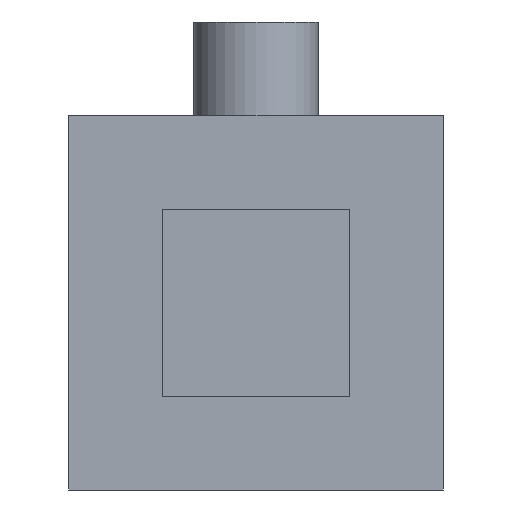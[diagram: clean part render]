
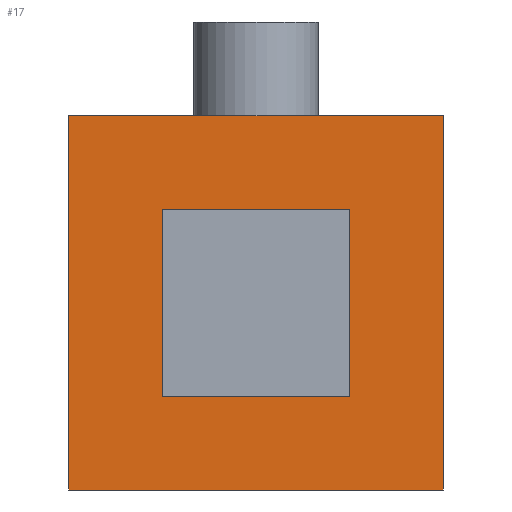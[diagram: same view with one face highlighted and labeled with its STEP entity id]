
A CAD part, left-side view. The second image highlights one B-rep face of the part: STEP entity #17.
In plain terms, the highlighted planar face has unit normal (-1, 0, 0).
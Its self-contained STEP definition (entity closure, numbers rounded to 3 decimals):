
#17 = ADVANCED_FACE('',(#18,#137),#32,.F.);
#18 = FACE_BOUND('',#19,.F.);
#19 = EDGE_LOOP('',(#20,#55,#83,#111));
#20 = ORIENTED_EDGE('',*,*,#21,.F.);
#21 = EDGE_CURVE('',#22,#24,#26,.T.);
#22 = VERTEX_POINT('',#23);
#23 = CARTESIAN_POINT('',(-140.,204.,70.));
#24 = VERTEX_POINT('',#25);
#25 = CARTESIAN_POINT('',(-140.,204.,82.));
#26 = SURFACE_CURVE('',#27,(#31,#43),.PCURVE_S1.);
#27 = LINE('',#28,#29);
#28 = CARTESIAN_POINT('',(-140.,204.,70.));
#29 = VECTOR('',#30,1.);
#30 = DIRECTION('',(0.,0.,1.));
#31 = PCURVE('',#32,#37);
#32 = PLANE('',#33);
#33 = AXIS2_PLACEMENT_3D('',#34,#35,#36);
#34 = CARTESIAN_POINT('',(-140.,204.,70.));
#35 = DIRECTION('',(1.,0.,0.));
#36 = DIRECTION('',(0.,0.,1.));
#37 = DEFINITIONAL_REPRESENTATION('',(#38),#42);
#38 = LINE('',#39,#40);
#39 = CARTESIAN_POINT('',(0.,0.));
#40 = VECTOR('',#41,1.);
#41 = DIRECTION('',(1.,0.));
#42 = ( GEOMETRIC_REPRESENTATION_CONTEXT(2) 
PARAMETRIC_REPRESENTATION_CONTEXT() REPRESENTATION_CONTEXT('2D SPACE',''
  ) );
#43 = PCURVE('',#44,#49);
#44 = PLANE('',#45);
#45 = AXIS2_PLACEMENT_3D('',#46,#47,#48);
#46 = CARTESIAN_POINT('',(-140.,204.,70.));
#47 = DIRECTION('',(0.,1.,0.));
#48 = DIRECTION('',(0.,0.,1.));
#49 = DEFINITIONAL_REPRESENTATION('',(#50),#54);
#50 = LINE('',#51,#52);
#51 = CARTESIAN_POINT('',(0.,0.));
#52 = VECTOR('',#53,1.);
#53 = DIRECTION('',(1.,0.));
#54 = ( GEOMETRIC_REPRESENTATION_CONTEXT(2) 
PARAMETRIC_REPRESENTATION_CONTEXT() REPRESENTATION_CONTEXT('2D SPACE',''
  ) );
#55 = ORIENTED_EDGE('',*,*,#56,.T.);
#56 = EDGE_CURVE('',#22,#57,#59,.T.);
#57 = VERTEX_POINT('',#58);
#58 = CARTESIAN_POINT('',(-140.,216.,70.));
#59 = SURFACE_CURVE('',#60,(#64,#71),.PCURVE_S1.);
#60 = LINE('',#61,#62);
#61 = CARTESIAN_POINT('',(-140.,204.,70.));
#62 = VECTOR('',#63,1.);
#63 = DIRECTION('',(0.,1.,0.));
#64 = PCURVE('',#32,#65);
#65 = DEFINITIONAL_REPRESENTATION('',(#66),#70);
#66 = LINE('',#67,#68);
#67 = CARTESIAN_POINT('',(0.,0.));
#68 = VECTOR('',#69,1.);
#69 = DIRECTION('',(0.,-1.));
#70 = ( GEOMETRIC_REPRESENTATION_CONTEXT(2) 
PARAMETRIC_REPRESENTATION_CONTEXT() REPRESENTATION_CONTEXT('2D SPACE',''
  ) );
#71 = PCURVE('',#72,#77);
#72 = PLANE('',#73);
#73 = AXIS2_PLACEMENT_3D('',#74,#75,#76);
#74 = CARTESIAN_POINT('',(-140.,204.,70.));
#75 = DIRECTION('',(0.,0.,1.));
#76 = DIRECTION('',(1.,0.,0.));
#77 = DEFINITIONAL_REPRESENTATION('',(#78),#82);
#78 = LINE('',#79,#80);
#79 = CARTESIAN_POINT('',(0.,0.));
#80 = VECTOR('',#81,1.);
#81 = DIRECTION('',(0.,1.));
#82 = ( GEOMETRIC_REPRESENTATION_CONTEXT(2) 
PARAMETRIC_REPRESENTATION_CONTEXT() REPRESENTATION_CONTEXT('2D SPACE',''
  ) );
#83 = ORIENTED_EDGE('',*,*,#84,.T.);
#84 = EDGE_CURVE('',#57,#85,#87,.T.);
#85 = VERTEX_POINT('',#86);
#86 = CARTESIAN_POINT('',(-140.,216.,82.));
#87 = SURFACE_CURVE('',#88,(#92,#99),.PCURVE_S1.);
#88 = LINE('',#89,#90);
#89 = CARTESIAN_POINT('',(-140.,216.,70.));
#90 = VECTOR('',#91,1.);
#91 = DIRECTION('',(0.,0.,1.));
#92 = PCURVE('',#32,#93);
#93 = DEFINITIONAL_REPRESENTATION('',(#94),#98);
#94 = LINE('',#95,#96);
#95 = CARTESIAN_POINT('',(0.,-12.));
#96 = VECTOR('',#97,1.);
#97 = DIRECTION('',(1.,0.));
#98 = ( GEOMETRIC_REPRESENTATION_CONTEXT(2) 
PARAMETRIC_REPRESENTATION_CONTEXT() REPRESENTATION_CONTEXT('2D SPACE',''
  ) );
#99 = PCURVE('',#100,#105);
#100 = PLANE('',#101);
#101 = AXIS2_PLACEMENT_3D('',#102,#103,#104);
#102 = CARTESIAN_POINT('',(-140.,216.,70.));
#103 = DIRECTION('',(0.,1.,0.));
#104 = DIRECTION('',(0.,0.,1.));
#105 = DEFINITIONAL_REPRESENTATION('',(#106),#110);
#106 = LINE('',#107,#108);
#107 = CARTESIAN_POINT('',(0.,0.));
#108 = VECTOR('',#109,1.);
#109 = DIRECTION('',(1.,0.));
#110 = ( GEOMETRIC_REPRESENTATION_CONTEXT(2) 
PARAMETRIC_REPRESENTATION_CONTEXT() REPRESENTATION_CONTEXT('2D SPACE',''
  ) );
#111 = ORIENTED_EDGE('',*,*,#112,.F.);
#112 = EDGE_CURVE('',#24,#85,#113,.T.);
#113 = SURFACE_CURVE('',#114,(#118,#125),.PCURVE_S1.);
#114 = LINE('',#115,#116);
#115 = CARTESIAN_POINT('',(-140.,204.,82.));
#116 = VECTOR('',#117,1.);
#117 = DIRECTION('',(0.,1.,0.));
#118 = PCURVE('',#32,#119);
#119 = DEFINITIONAL_REPRESENTATION('',(#120),#124);
#120 = LINE('',#121,#122);
#121 = CARTESIAN_POINT('',(12.,0.));
#122 = VECTOR('',#123,1.);
#123 = DIRECTION('',(0.,-1.));
#124 = ( GEOMETRIC_REPRESENTATION_CONTEXT(2) 
PARAMETRIC_REPRESENTATION_CONTEXT() REPRESENTATION_CONTEXT('2D SPACE',''
  ) );
#125 = PCURVE('',#126,#131);
#126 = PLANE('',#127);
#127 = AXIS2_PLACEMENT_3D('',#128,#129,#130);
#128 = CARTESIAN_POINT('',(-140.,204.,82.));
#129 = DIRECTION('',(0.,0.,1.));
#130 = DIRECTION('',(1.,0.,0.));
#131 = DEFINITIONAL_REPRESENTATION('',(#132),#136);
#132 = LINE('',#133,#134);
#133 = CARTESIAN_POINT('',(0.,0.));
#134 = VECTOR('',#135,1.);
#135 = DIRECTION('',(0.,1.));
#136 = ( GEOMETRIC_REPRESENTATION_CONTEXT(2) 
PARAMETRIC_REPRESENTATION_CONTEXT() REPRESENTATION_CONTEXT('2D SPACE',''
  ) );
#137 = FACE_BOUND('',#138,.F.);
#138 = EDGE_LOOP('',(#139,#167,#193,#219));
#139 = ORIENTED_EDGE('',*,*,#140,.T.);
#140 = EDGE_CURVE('',#141,#143,#145,.T.);
#141 = VERTEX_POINT('',#142);
#142 = CARTESIAN_POINT('',(-140.,213.,73.));
#143 = VERTEX_POINT('',#144);
#144 = CARTESIAN_POINT('',(-140.,207.,73.));
#145 = SURFACE_CURVE('',#146,(#150,#156),.PCURVE_S1.);
#146 = LINE('',#147,#148);
#147 = CARTESIAN_POINT('',(-140.,205.5,73.));
#148 = VECTOR('',#149,1.);
#149 = DIRECTION('',(0.,-1.,0.));
#150 = PCURVE('',#32,#151);
#151 = DEFINITIONAL_REPRESENTATION('',(#152),#155);
#152 = B_SPLINE_CURVE_WITH_KNOTS('',1,(#153,#154),.UNSPECIFIED.,.F.,.F.,
  (2,2),(-7.5,-1.5),.PIECEWISE_BEZIER_KNOTS.);
#153 = CARTESIAN_POINT('',(3.,-9.));
#154 = CARTESIAN_POINT('',(3.,-3.));
#155 = ( GEOMETRIC_REPRESENTATION_CONTEXT(2) 
PARAMETRIC_REPRESENTATION_CONTEXT() REPRESENTATION_CONTEXT('2D SPACE',''
  ) );
#156 = PCURVE('',#157,#162);
#157 = PLANE('',#158);
#158 = AXIS2_PLACEMENT_3D('',#159,#160,#161);
#159 = CARTESIAN_POINT('',(-141.,207.,73.));
#160 = DIRECTION('',(0.,0.,1.));
#161 = DIRECTION('',(1.,0.,0.));
#162 = DEFINITIONAL_REPRESENTATION('',(#163),#166);
#163 = B_SPLINE_CURVE_WITH_KNOTS('',1,(#164,#165),.UNSPECIFIED.,.F.,.F.,
  (2,2),(-7.5,-1.5),.PIECEWISE_BEZIER_KNOTS.);
#164 = CARTESIAN_POINT('',(1.,6.));
#165 = CARTESIAN_POINT('',(1.,0.));
#166 = ( GEOMETRIC_REPRESENTATION_CONTEXT(2) 
PARAMETRIC_REPRESENTATION_CONTEXT() REPRESENTATION_CONTEXT('2D SPACE',''
  ) );
#167 = ORIENTED_EDGE('',*,*,#168,.T.);
#168 = EDGE_CURVE('',#143,#169,#171,.T.);
#169 = VERTEX_POINT('',#170);
#170 = CARTESIAN_POINT('',(-140.,207.,79.));
#171 = SURFACE_CURVE('',#172,(#176,#182),.PCURVE_S1.);
#172 = LINE('',#173,#174);
#173 = CARTESIAN_POINT('',(-140.,207.,71.5));
#174 = VECTOR('',#175,1.);
#175 = DIRECTION('',(0.,0.,1.));
#176 = PCURVE('',#32,#177);
#177 = DEFINITIONAL_REPRESENTATION('',(#178),#181);
#178 = B_SPLINE_CURVE_WITH_KNOTS('',1,(#179,#180),.UNSPECIFIED.,.F.,.F.,
  (2,2),(1.5,7.5),.PIECEWISE_BEZIER_KNOTS.);
#179 = CARTESIAN_POINT('',(3.,-3.));
#180 = CARTESIAN_POINT('',(9.,-3.));
#181 = ( GEOMETRIC_REPRESENTATION_CONTEXT(2) 
PARAMETRIC_REPRESENTATION_CONTEXT() REPRESENTATION_CONTEXT('2D SPACE',''
  ) );
#182 = PCURVE('',#183,#188);
#183 = PLANE('',#184);
#184 = AXIS2_PLACEMENT_3D('',#185,#186,#187);
#185 = CARTESIAN_POINT('',(-141.,207.,73.));
#186 = DIRECTION('',(0.,1.,0.));
#187 = DIRECTION('',(0.,0.,1.));
#188 = DEFINITIONAL_REPRESENTATION('',(#189),#192);
#189 = B_SPLINE_CURVE_WITH_KNOTS('',1,(#190,#191),.UNSPECIFIED.,.F.,.F.,
  (2,2),(1.5,7.5),.PIECEWISE_BEZIER_KNOTS.);
#190 = CARTESIAN_POINT('',(0.,1.));
#191 = CARTESIAN_POINT('',(6.,1.));
#192 = ( GEOMETRIC_REPRESENTATION_CONTEXT(2) 
PARAMETRIC_REPRESENTATION_CONTEXT() REPRESENTATION_CONTEXT('2D SPACE',''
  ) );
#193 = ORIENTED_EDGE('',*,*,#194,.F.);
#194 = EDGE_CURVE('',#195,#169,#197,.T.);
#195 = VERTEX_POINT('',#196);
#196 = CARTESIAN_POINT('',(-140.,213.,79.));
#197 = SURFACE_CURVE('',#198,(#202,#208),.PCURVE_S1.);
#198 = LINE('',#199,#200);
#199 = CARTESIAN_POINT('',(-140.,205.5,79.));
#200 = VECTOR('',#201,1.);
#201 = DIRECTION('',(0.,-1.,0.));
#202 = PCURVE('',#32,#203);
#203 = DEFINITIONAL_REPRESENTATION('',(#204),#207);
#204 = B_SPLINE_CURVE_WITH_KNOTS('',1,(#205,#206),.UNSPECIFIED.,.F.,.F.,
  (2,2),(-7.5,-1.5),.PIECEWISE_BEZIER_KNOTS.);
#205 = CARTESIAN_POINT('',(9.,-9.));
#206 = CARTESIAN_POINT('',(9.,-3.));
#207 = ( GEOMETRIC_REPRESENTATION_CONTEXT(2) 
PARAMETRIC_REPRESENTATION_CONTEXT() REPRESENTATION_CONTEXT('2D SPACE',''
  ) );
#208 = PCURVE('',#209,#214);
#209 = PLANE('',#210);
#210 = AXIS2_PLACEMENT_3D('',#211,#212,#213);
#211 = CARTESIAN_POINT('',(-141.,207.,79.));
#212 = DIRECTION('',(0.,0.,1.));
#213 = DIRECTION('',(1.,0.,0.));
#214 = DEFINITIONAL_REPRESENTATION('',(#215),#218);
#215 = B_SPLINE_CURVE_WITH_KNOTS('',1,(#216,#217),.UNSPECIFIED.,.F.,.F.,
  (2,2),(-7.5,-1.5),.PIECEWISE_BEZIER_KNOTS.);
#216 = CARTESIAN_POINT('',(1.,6.));
#217 = CARTESIAN_POINT('',(1.,0.));
#218 = ( GEOMETRIC_REPRESENTATION_CONTEXT(2) 
PARAMETRIC_REPRESENTATION_CONTEXT() REPRESENTATION_CONTEXT('2D SPACE',''
  ) );
#219 = ORIENTED_EDGE('',*,*,#220,.F.);
#220 = EDGE_CURVE('',#141,#195,#221,.T.);
#221 = SURFACE_CURVE('',#222,(#226,#232),.PCURVE_S1.);
#222 = LINE('',#223,#224);
#223 = CARTESIAN_POINT('',(-140.,213.,71.5));
#224 = VECTOR('',#225,1.);
#225 = DIRECTION('',(0.,0.,1.));
#226 = PCURVE('',#32,#227);
#227 = DEFINITIONAL_REPRESENTATION('',(#228),#231);
#228 = B_SPLINE_CURVE_WITH_KNOTS('',1,(#229,#230),.UNSPECIFIED.,.F.,.F.,
  (2,2),(1.5,7.5),.PIECEWISE_BEZIER_KNOTS.);
#229 = CARTESIAN_POINT('',(3.,-9.));
#230 = CARTESIAN_POINT('',(9.,-9.));
#231 = ( GEOMETRIC_REPRESENTATION_CONTEXT(2) 
PARAMETRIC_REPRESENTATION_CONTEXT() REPRESENTATION_CONTEXT('2D SPACE',''
  ) );
#232 = PCURVE('',#233,#238);
#233 = PLANE('',#234);
#234 = AXIS2_PLACEMENT_3D('',#235,#236,#237);
#235 = CARTESIAN_POINT('',(-141.,213.,73.));
#236 = DIRECTION('',(0.,1.,0.));
#237 = DIRECTION('',(0.,0.,1.));
#238 = DEFINITIONAL_REPRESENTATION('',(#239),#242);
#239 = B_SPLINE_CURVE_WITH_KNOTS('',1,(#240,#241),.UNSPECIFIED.,.F.,.F.,
  (2,2),(1.5,7.5),.PIECEWISE_BEZIER_KNOTS.);
#240 = CARTESIAN_POINT('',(0.,1.));
#241 = CARTESIAN_POINT('',(6.,1.));
#242 = ( GEOMETRIC_REPRESENTATION_CONTEXT(2) 
PARAMETRIC_REPRESENTATION_CONTEXT() REPRESENTATION_CONTEXT('2D SPACE',''
  ) );
